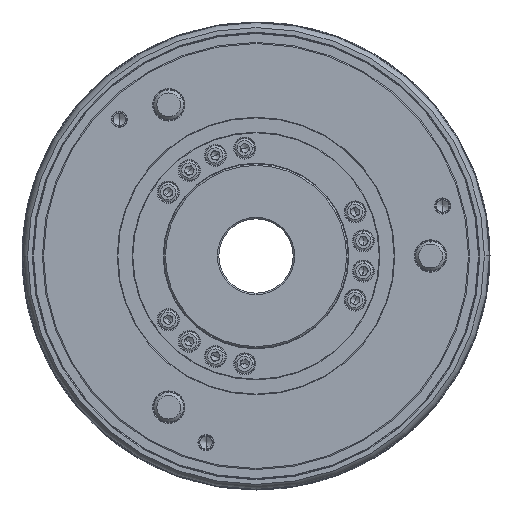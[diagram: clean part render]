
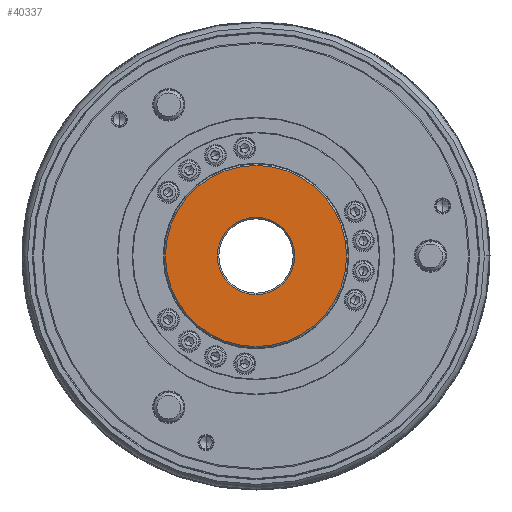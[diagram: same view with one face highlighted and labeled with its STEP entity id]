
A CAD part, left-side view. The second image highlights one B-rep face of the part: STEP entity #40337.
In plain terms, the highlighted planar face has unit normal (-1, 0, 0).
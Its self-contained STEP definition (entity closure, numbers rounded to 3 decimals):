
#46 = VERTEX_POINT ( 'NONE', #63440 ) ;
#997 = CIRCLE ( 'NONE', #25752, 26. ) ;
#3192 = VERTEX_POINT ( 'NONE', #65081 ) ;
#8537 = DIRECTION ( 'NONE',  ( 0., 0., -1. ) ) ;
#12409 = ORIENTED_EDGE ( 'NONE', *, *, #46764, .F. ) ;
#12983 = AXIS2_PLACEMENT_3D ( 'NONE', #102861, #47840, #101686 ) ;
#15736 = VERTEX_POINT ( 'NONE', #78937 ) ;
#18221 = EDGE_CURVE ( 'NONE', #46, #15736, #68074, .T. ) ;
#20219 = ORIENTED_EDGE ( 'NONE', *, *, #84440, .T. ) ;
#22596 = DIRECTION ( 'NONE',  ( 1., 0., 0. ) ) ;
#25752 = AXIS2_PLACEMENT_3D ( 'NONE', #84208, #22596, #49509 ) ;
#27053 = CARTESIAN_POINT ( 'NONE',  ( 0., 0., 0. ) ) ;
#33111 = ORIENTED_EDGE ( 'NONE', *, *, #18221, .F. ) ;
#33690 = AXIS2_PLACEMENT_3D ( 'NONE', #92780, #91606, #38947 ) ;
#35563 = CIRCLE ( 'NONE', #33690, 61. ) ;
#38275 = FACE_OUTER_BOUND ( 'NONE', #96436, .T. ) ;
#38947 = DIRECTION ( 'NONE',  ( 0., 0., -1. ) ) ;
#40337 = ADVANCED_FACE ( 'NONE', ( #48430, #38275 ), #84913, .T. ) ;
#42783 = CARTESIAN_POINT ( 'NONE',  ( 0., 0., 0. ) ) ;
#42859 = VERTEX_POINT ( 'NONE', #69977 ) ;
#44280 = EDGE_LOOP ( 'NONE', ( #20219, #75160 ) ) ;
#46764 = EDGE_CURVE ( 'NONE', #15736, #46, #35563, .T. ) ;
#47840 = DIRECTION ( 'NONE',  ( -1., 0., 0. ) ) ;
#48430 = FACE_BOUND ( 'NONE', #44280, .T. ) ;
#49509 = DIRECTION ( 'NONE',  ( 0., 0., -1. ) ) ;
#56296 = EDGE_CURVE ( 'NONE', #3192, #42859, #79515, .T. ) ;
#63440 = CARTESIAN_POINT ( 'NONE',  ( 0., 0., 61. ) ) ;
#65081 = CARTESIAN_POINT ( 'NONE',  ( 0., 0., -26. ) ) ;
#68074 = CIRCLE ( 'NONE', #83339, 61. ) ;
#69977 = CARTESIAN_POINT ( 'NONE',  ( 0., 0., 26. ) ) ;
#71336 = DIRECTION ( 'NONE',  ( 1., 0., 0. ) ) ;
#75160 = ORIENTED_EDGE ( 'NONE', *, *, #56296, .T. ) ;
#78937 = CARTESIAN_POINT ( 'NONE',  ( 0., 0., -61. ) ) ;
#79277 = DIRECTION ( 'NONE',  ( 1., 0., 0. ) ) ;
#79515 = CIRCLE ( 'NONE', #104353, 26. ) ;
#83339 = AXIS2_PLACEMENT_3D ( 'NONE', #27053, #71336, #8537 ) ;
#84208 = CARTESIAN_POINT ( 'NONE',  ( 0., 0., 0. ) ) ;
#84440 = EDGE_CURVE ( 'NONE', #42859, #3192, #997, .T. ) ;
#84913 = PLANE ( 'NONE',  #12983 ) ;
#91606 = DIRECTION ( 'NONE',  ( 1., 0., 0. ) ) ;
#92780 = CARTESIAN_POINT ( 'NONE',  ( 0., 0., 0. ) ) ;
#96436 = EDGE_LOOP ( 'NONE', ( #12409, #33111 ) ) ;
#101686 = DIRECTION ( 'NONE',  ( 0., 0., 1. ) ) ;
#102861 = CARTESIAN_POINT ( 'NONE',  ( 0., 0., -26. ) ) ;
#104353 = AXIS2_PLACEMENT_3D ( 'NONE', #42783, #79277, #107375 ) ;
#107375 = DIRECTION ( 'NONE',  ( 0., 0., -1. ) ) ;
